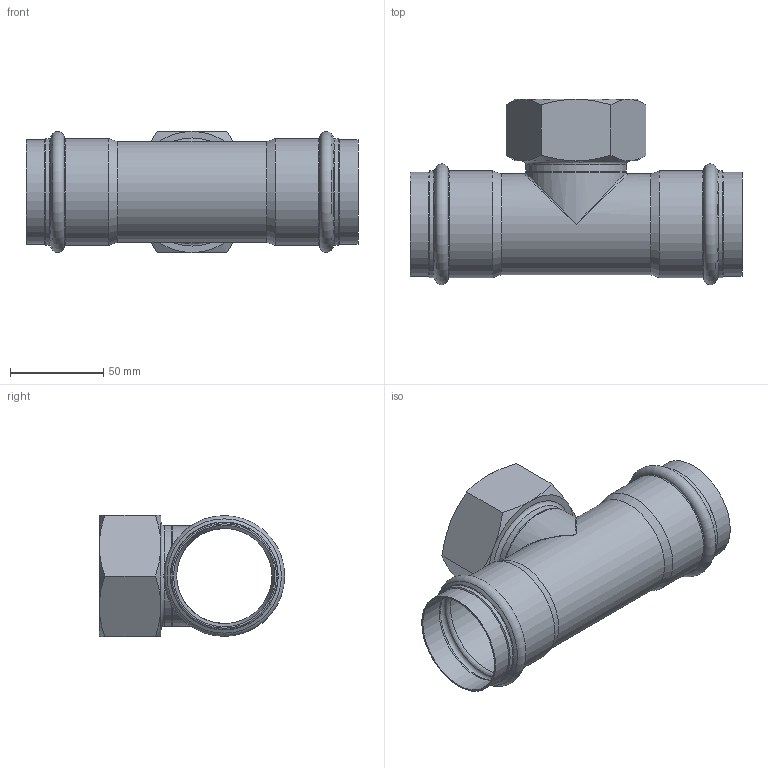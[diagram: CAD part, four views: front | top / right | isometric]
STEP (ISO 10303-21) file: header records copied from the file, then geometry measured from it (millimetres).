
FILE_DESCRIPTION((''),'2;1');
FILE_NAME('G:\Nirosan-Schmiedefeld\Technics\CAD\Bauteile VA\054\69130g54254(4).stp','2009-10-08T11:36:00',('herberg'),(''),'Autodesk Inventor 2009','Autodesk Inventor 2009','');
FILE_SCHEMA(('AUTOMOTIVE_DESIGN { 1 0 10303 214 1 1 1 1 }'));
Length unit declared in the file: millimetre
Products named in the file (3): 69130g54254(4); LM_6913054(3); IG542(1)
Assembly tree (2 placements, depth 2):
  69130g54254(4)
    LM_6913054(3)
    IG542(1)
Bounding box: 178 x 99.4 x 65 mm (x, y, z)
Volume: 84685.8 mm3; surface area: 80827.9 mm2
Topology: 2 solids, 2 shells, 70 faces, 155 edges, 83 vertices
Faces by surface type: cone 23, bspline 16, cylinder 15, plane 12, torus 4
Full cylindrical faces by diameter (mm): 51 x2, 54 x3, 54.35 x4, 55.95 x2, 57.35 x4
Entity records: 2670 total; most frequent: CARTESIAN_POINT 1406, DIRECTION 256, ORIENTED_EDGE 192, AXIS2_PLACEMENT_3D 125, EDGE_LOOP 120, EDGE_CURVE 96, VERTEX_POINT 74, FACE_OUTER_BOUND 70
